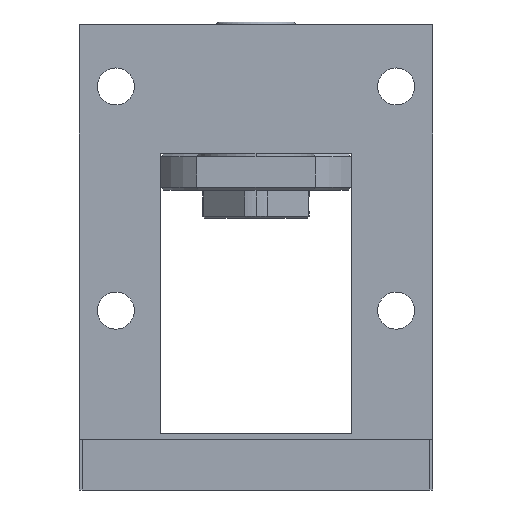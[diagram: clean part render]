
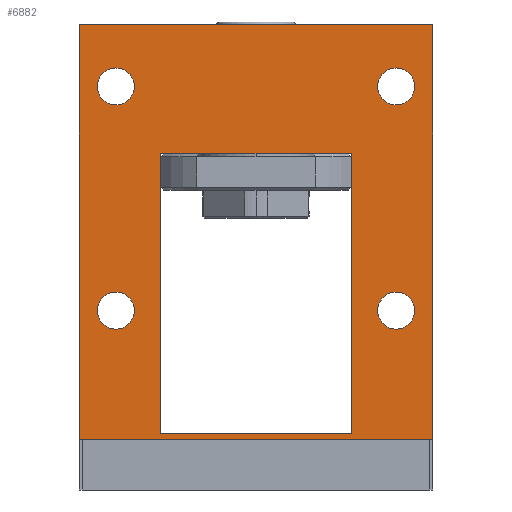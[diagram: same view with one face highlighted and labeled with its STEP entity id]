
A CAD part, front view. The second image highlights one B-rep face of the part: STEP entity #6882.
In plain terms, the highlighted planar face has unit normal (0, -1, 0).
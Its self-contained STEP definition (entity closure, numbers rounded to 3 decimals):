
#21 = DIRECTION ( 'NONE',  ( -1., 0., 0. ) ) ;
#58 = DIRECTION ( 'NONE',  ( 0., 1., 0. ) ) ;
#90 = FACE_BOUND ( 'NONE', #5367, .T. ) ;
#120 = CARTESIAN_POINT ( 'NONE',  ( 25., -20., -49.3 ) ) ;
#144 = VECTOR ( 'NONE', #2223, 1000. ) ;
#315 = AXIS2_PLACEMENT_3D ( 'NONE', #5548, #1832, #6185 ) ;
#365 = ORIENTED_EDGE ( 'NONE', *, *, #3584, .T. ) ;
#491 = DIRECTION ( 'NONE',  ( 0., 0., 1. ) ) ;
#534 = EDGE_CURVE ( 'NONE', #4834, #5969, #6759, .T. ) ;
#1012 = CARTESIAN_POINT ( 'NONE',  ( 25., -20., -46. ) ) ;
#1158 = CARTESIAN_POINT ( 'NONE',  ( 25., -20., -2.7 ) ) ;
#1167 = AXIS2_PLACEMENT_3D ( 'NONE', #7965, #4273, #491 ) ;
#1217 = EDGE_LOOP ( 'NONE', ( #2995, #2699 ) ) ;
#1248 = EDGE_LOOP ( 'NONE', ( #4313, #4333, #7891, #365 ) ) ;
#1384 = EDGE_CURVE ( 'NONE', #3357, #1811, #3518, .T. ) ;
#1493 = ORIENTED_EDGE ( 'NONE', *, *, #6080, .T. ) ;
#1568 = VECTOR ( 'NONE', #2014, 1000. ) ;
#1608 = VERTEX_POINT ( 'NONE', #3156 ) ;
#1635 = DIRECTION ( 'NONE',  ( 0., 0., 1. ) ) ;
#1657 = CARTESIAN_POINT ( 'NONE',  ( 25., -20., -6. ) ) ;
#1669 = CARTESIAN_POINT ( 'NONE',  ( 31.5, -20., -69. ) ) ;
#1706 = CARTESIAN_POINT ( 'NONE',  ( -31.5, -20., -69. ) ) ;
#1777 = LINE ( 'NONE', #4486, #1568 ) ;
#1781 = EDGE_LOOP ( 'NONE', ( #2844, #1493 ) ) ;
#1792 = FACE_BOUND ( 'NONE', #1217, .T. ) ;
#1803 = DIRECTION ( 'NONE',  ( 0., 1., 0. ) ) ;
#1807 = EDGE_CURVE ( 'NONE', #6510, #7986, #7373, .T. ) ;
#1811 = VERTEX_POINT ( 'NONE', #1669 ) ;
#1818 = VERTEX_POINT ( 'NONE', #1706 ) ;
#1832 = DIRECTION ( 'NONE',  ( 0., 1., 0. ) ) ;
#1886 = ORIENTED_EDGE ( 'NONE', *, *, #5157, .T. ) ;
#1902 = CARTESIAN_POINT ( 'NONE',  ( 25., -20., -46. ) ) ;
#1942 = AXIS2_PLACEMENT_3D ( 'NONE', #1657, #6023, #2302 ) ;
#2002 = FACE_BOUND ( 'NONE', #1781, .T. ) ;
#2014 = DIRECTION ( 'NONE',  ( -1., 0., 0. ) ) ;
#2061 = CARTESIAN_POINT ( 'NONE',  ( -25., -20., -9.3 ) ) ;
#2223 = DIRECTION ( 'NONE',  ( 0., 0., -1. ) ) ;
#2302 = DIRECTION ( 'NONE',  ( 0., 0., 1. ) ) ;
#2418 = CARTESIAN_POINT ( 'NONE',  ( 17., -20., 13.623 ) ) ;
#2525 = DIRECTION ( 'NONE',  ( 0., 0., 1. ) ) ;
#2577 = CARTESIAN_POINT ( 'NONE',  ( -31.5, -20., -68. ) ) ;
#2699 = ORIENTED_EDGE ( 'NONE', *, *, #3458, .T. ) ;
#2844 = ORIENTED_EDGE ( 'NONE', *, *, #5130, .T. ) ;
#2958 = EDGE_LOOP ( 'NONE', ( #4996, #1886, #7415, #7141 ) ) ;
#2995 = ORIENTED_EDGE ( 'NONE', *, *, #4965, .T. ) ;
#3156 = CARTESIAN_POINT ( 'NONE',  ( -17., -20., -68. ) ) ;
#3189 = CARTESIAN_POINT ( 'NONE',  ( -38.07, -20., -68. ) ) ;
#3222 = CARTESIAN_POINT ( 'NONE',  ( -51.828, -20., -68. ) ) ;
#3267 = CARTESIAN_POINT ( 'NONE',  ( -17., -20., 13.623 ) ) ;
#3271 = CARTESIAN_POINT ( 'NONE',  ( -25., -20., -46. ) ) ;
#3292 = VERTEX_POINT ( 'NONE', #120 ) ;
#3319 = CARTESIAN_POINT ( 'NONE',  ( -25., -20., -2.7 ) ) ;
#3357 = VERTEX_POINT ( 'NONE', #6454 ) ;
#3399 = AXIS2_PLACEMENT_3D ( 'NONE', #5343, #7317, #7814 ) ;
#3458 = EDGE_CURVE ( 'NONE', #5471, #5386, #4613, .T. ) ;
#3471 = CARTESIAN_POINT ( 'NONE',  ( -25., -20., -49.3 ) ) ;
#3472 = CARTESIAN_POINT ( 'NONE',  ( -38.07, -20., -69. ) ) ;
#3518 = LINE ( 'NONE', #5436, #144 ) ;
#3584 = EDGE_CURVE ( 'NONE', #3357, #5736, #1777, .T. ) ;
#3593 = EDGE_CURVE ( 'NONE', #5602, #1608, #6532, .T. ) ;
#3763 = AXIS2_PLACEMENT_3D ( 'NONE', #1012, #5375, #1635 ) ;
#3786 = CARTESIAN_POINT ( 'NONE',  ( 25., -20., -9.3 ) ) ;
#3827 = EDGE_CURVE ( 'NONE', #1811, #1818, #7018, .T. ) ;
#3910 = DIRECTION ( 'NONE',  ( 0., 0., 1. ) ) ;
#3925 = CIRCLE ( 'NONE', #8027, 3.3 ) ;
#3946 = VECTOR ( 'NONE', #7790, 1000. ) ;
#4084 = ORIENTED_EDGE ( 'NONE', *, *, #7732, .T. ) ;
#4113 = ORIENTED_EDGE ( 'NONE', *, *, #534, .T. ) ;
#4122 = ORIENTED_EDGE ( 'NONE', *, *, #5382, .T. ) ;
#4273 = DIRECTION ( 'NONE',  ( 0., 1., 0. ) ) ;
#4293 = LINE ( 'NONE', #2577, #4492 ) ;
#4313 = ORIENTED_EDGE ( 'NONE', *, *, #5787, .F. ) ;
#4331 = CARTESIAN_POINT ( 'NONE',  ( 17., -20., -18. ) ) ;
#4333 = ORIENTED_EDGE ( 'NONE', *, *, #3827, .F. ) ;
#4473 = DIRECTION ( 'NONE',  ( 0., 0., 1. ) ) ;
#4486 = CARTESIAN_POINT ( 'NONE',  ( -51.828, -20., 5. ) ) ;
#4491 = CIRCLE ( 'NONE', #1942, 3.3 ) ;
#4492 = VECTOR ( 'NONE', #6897, 1000. ) ;
#4613 = CIRCLE ( 'NONE', #1167, 3.3 ) ;
#4666 = EDGE_CURVE ( 'NONE', #5602, #6510, #5160, .T. ) ;
#4834 = VERTEX_POINT ( 'NONE', #2061 ) ;
#4869 = EDGE_LOOP ( 'NONE', ( #7542, #4084 ) ) ;
#4961 = VECTOR ( 'NONE', #8039, 1000. ) ;
#4965 = EDGE_CURVE ( 'NONE', #5386, #5471, #4491, .T. ) ;
#4996 = ORIENTED_EDGE ( 'NONE', *, *, #1807, .T. ) ;
#5130 = EDGE_CURVE ( 'NONE', #6580, #3292, #7092, .T. ) ;
#5157 = EDGE_CURVE ( 'NONE', #7986, #1608, #6700, .T. ) ;
#5160 = LINE ( 'NONE', #4331, #4961 ) ;
#5295 = FACE_BOUND ( 'NONE', #4869, .T. ) ;
#5343 = CARTESIAN_POINT ( 'NONE',  ( -25., -20., -6. ) ) ;
#5346 = AXIS2_PLACEMENT_3D ( 'NONE', #3222, #58, #4473 ) ;
#5351 = EDGE_CURVE ( 'NONE', #6525, #6516, #3925, .T. ) ;
#5367 = EDGE_LOOP ( 'NONE', ( #4122, #4113 ) ) ;
#5375 = DIRECTION ( 'NONE',  ( 0., 1., 0. ) ) ;
#5382 = EDGE_CURVE ( 'NONE', #5969, #4834, #6995, .T. ) ;
#5386 = VERTEX_POINT ( 'NONE', #1158 ) ;
#5436 = CARTESIAN_POINT ( 'NONE',  ( 31.5, -20., -68. ) ) ;
#5470 = CARTESIAN_POINT ( 'NONE',  ( 17., -20., -68. ) ) ;
#5471 = VERTEX_POINT ( 'NONE', #3786 ) ;
#5526 = CARTESIAN_POINT ( 'NONE',  ( -25., -20., -46. ) ) ;
#5545 = VECTOR ( 'NONE', #5717, 1000. ) ;
#5548 = CARTESIAN_POINT ( 'NONE',  ( -25., -20., -6. ) ) ;
#5602 = VERTEX_POINT ( 'NONE', #6979 ) ;
#5717 = DIRECTION ( 'NONE',  ( 0., 0., -1. ) ) ;
#5733 = DIRECTION ( 'NONE',  ( 0., 0., -1. ) ) ;
#5736 = VERTEX_POINT ( 'NONE', #7781 ) ;
#5787 = EDGE_CURVE ( 'NONE', #1818, #5736, #4293, .T. ) ;
#5969 = VERTEX_POINT ( 'NONE', #3319 ) ;
#5989 = CARTESIAN_POINT ( 'NONE',  ( -25., -20., -42.7 ) ) ;
#6023 = DIRECTION ( 'NONE',  ( 0., 1., 0. ) ) ;
#6053 = CIRCLE ( 'NONE', #6144, 3.3 ) ;
#6080 = EDGE_CURVE ( 'NONE', #3292, #6580, #7049, .T. ) ;
#6144 = AXIS2_PLACEMENT_3D ( 'NONE', #3271, #7588, #3910 ) ;
#6154 = DIRECTION ( 'NONE',  ( 0., 0., 1. ) ) ;
#6185 = DIRECTION ( 'NONE',  ( 0., 0., 1. ) ) ;
#6246 = DIRECTION ( 'NONE',  ( 0., 1., 0. ) ) ;
#6368 = VECTOR ( 'NONE', #5733, 1000. ) ;
#6454 = CARTESIAN_POINT ( 'NONE',  ( 31.5, -20., 5. ) ) ;
#6500 = AXIS2_PLACEMENT_3D ( 'NONE', #1902, #6246, #2525 ) ;
#6510 = VERTEX_POINT ( 'NONE', #6567 ) ;
#6512 = VECTOR ( 'NONE', #21, 1000. ) ;
#6516 = VERTEX_POINT ( 'NONE', #3471 ) ;
#6525 = VERTEX_POINT ( 'NONE', #5989 ) ;
#6532 = LINE ( 'NONE', #3267, #6368 ) ;
#6544 = FACE_OUTER_BOUND ( 'NONE', #1248, .T. ) ;
#6567 = CARTESIAN_POINT ( 'NONE',  ( 17., -20., -18. ) ) ;
#6580 = VERTEX_POINT ( 'NONE', #7900 ) ;
#6700 = LINE ( 'NONE', #3189, #6512 ) ;
#6739 = FACE_BOUND ( 'NONE', #2958, .T. ) ;
#6759 = CIRCLE ( 'NONE', #3399, 3.3 ) ;
#6882 = ADVANCED_FACE ( 'NONE', ( #6739, #2002, #1792, #5295, #90, #6544 ), #7553, .F. ) ;
#6897 = DIRECTION ( 'NONE',  ( 0., 0., 1. ) ) ;
#6979 = CARTESIAN_POINT ( 'NONE',  ( -17., -20., -18. ) ) ;
#6995 = CIRCLE ( 'NONE', #315, 3.3 ) ;
#7018 = LINE ( 'NONE', #3472, #3946 ) ;
#7049 = CIRCLE ( 'NONE', #3763, 3.3 ) ;
#7092 = CIRCLE ( 'NONE', #6500, 3.3 ) ;
#7141 = ORIENTED_EDGE ( 'NONE', *, *, #4666, .T. ) ;
#7317 = DIRECTION ( 'NONE',  ( 0., 1., 0. ) ) ;
#7373 = LINE ( 'NONE', #2418, #5545 ) ;
#7415 = ORIENTED_EDGE ( 'NONE', *, *, #3593, .F. ) ;
#7542 = ORIENTED_EDGE ( 'NONE', *, *, #5351, .T. ) ;
#7553 = PLANE ( 'NONE',  #5346 ) ;
#7588 = DIRECTION ( 'NONE',  ( 0., 1., 0. ) ) ;
#7732 = EDGE_CURVE ( 'NONE', #6516, #6525, #6053, .T. ) ;
#7781 = CARTESIAN_POINT ( 'NONE',  ( -31.5, -20., 5. ) ) ;
#7790 = DIRECTION ( 'NONE',  ( -1., 0., 0. ) ) ;
#7814 = DIRECTION ( 'NONE',  ( 0., 0., 1. ) ) ;
#7891 = ORIENTED_EDGE ( 'NONE', *, *, #1384, .F. ) ;
#7900 = CARTESIAN_POINT ( 'NONE',  ( 25., -20., -42.7 ) ) ;
#7965 = CARTESIAN_POINT ( 'NONE',  ( 25., -20., -6. ) ) ;
#7986 = VERTEX_POINT ( 'NONE', #5470 ) ;
#8027 = AXIS2_PLACEMENT_3D ( 'NONE', #5526, #1803, #6154 ) ;
#8039 = DIRECTION ( 'NONE',  ( 1., 0., 0. ) ) ;
